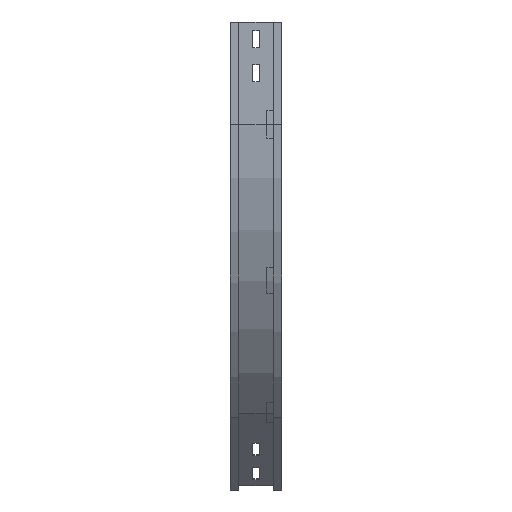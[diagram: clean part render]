
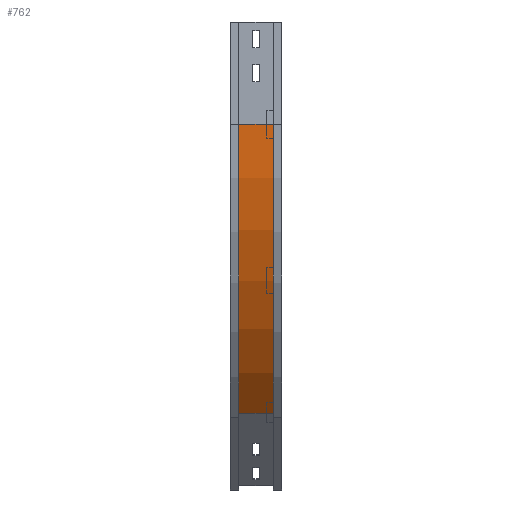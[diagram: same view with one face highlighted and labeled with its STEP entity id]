
A CAD part, left-side view. The second image highlights one B-rep face of the part: STEP entity #762.
In plain terms, the highlighted cylindrical face has radius 600 mm (diameter 1200 mm), a partial arc.
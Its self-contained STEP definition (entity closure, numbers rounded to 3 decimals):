
#13 = DIRECTION ( 'NONE',  ( -1., 0., 0. ) ) ;
#142 = ORIENTED_EDGE ( 'NONE', *, *, #352, .T. ) ;
#220 = CARTESIAN_POINT ( 'NONE',  ( 9., 12., -150. ) ) ;
#352 = EDGE_CURVE ( 'NONE', #3407, #3027, #772, .T. ) ;
#370 = DIRECTION ( 'NONE',  ( -1., 0., 0. ) ) ;
#562 = DIRECTION ( 'NONE',  ( 0., -1., 0. ) ) ;
#740 = CARTESIAN_POINT ( 'NONE',  ( 184.736, 12., -574.264 ) ) ;
#746 = EDGE_CURVE ( 'NONE', #2995, #3027, #2009, .T. ) ;
#762 = ADVANCED_FACE ( 'NONE', ( #2463 ), #2165, .T. ) ;
#772 = LINE ( 'NONE', #1827, #2651 ) ;
#810 = CARTESIAN_POINT ( 'NONE',  ( 9., 12., -150. ) ) ;
#832 = AXIS2_PLACEMENT_3D ( 'NONE', #2701, #1389, #370 ) ;
#903 = ORIENTED_EDGE ( 'NONE', *, *, #2497, .T. ) ;
#975 = VECTOR ( 'NONE', #2694, 1000. ) ;
#1070 = VERTEX_POINT ( 'NONE', #3372 ) ;
#1158 = LINE ( 'NONE', #810, #975 ) ;
#1389 = DIRECTION ( 'NONE',  ( 0., -1., 0. ) ) ;
#1690 = EDGE_LOOP ( 'NONE', ( #1840, #2007, #903, #142 ) ) ;
#1726 = AXIS2_PLACEMENT_3D ( 'NONE', #2422, #2183, #2739 ) ;
#1827 = CARTESIAN_POINT ( 'NONE',  ( 184.736, 12., -574.264 ) ) ;
#1840 = ORIENTED_EDGE ( 'NONE', *, *, #746, .F. ) ;
#1900 = CIRCLE ( 'NONE', #3266, 600. ) ;
#2007 = ORIENTED_EDGE ( 'NONE', *, *, #2552, .F. ) ;
#2009 = CIRCLE ( 'NONE', #832, 600. ) ;
#2165 = CYLINDRICAL_SURFACE ( 'NONE', #1726, 600. ) ;
#2183 = DIRECTION ( 'NONE',  ( 0., -1., 0. ) ) ;
#2386 = CARTESIAN_POINT ( 'NONE',  ( 609., 63., -150. ) ) ;
#2422 = CARTESIAN_POINT ( 'NONE',  ( 609., 0., -150. ) ) ;
#2463 = FACE_OUTER_BOUND ( 'NONE', #1690, .T. ) ;
#2497 = EDGE_CURVE ( 'NONE', #1070, #3407, #1900, .T. ) ;
#2517 = CARTESIAN_POINT ( 'NONE',  ( 184.736, 63., -574.264 ) ) ;
#2552 = EDGE_CURVE ( 'NONE', #1070, #2995, #1158, .T. ) ;
#2651 = VECTOR ( 'NONE', #562, 1000. ) ;
#2694 = DIRECTION ( 'NONE',  ( 0., -1., 0. ) ) ;
#2701 = CARTESIAN_POINT ( 'NONE',  ( 609., 12., -150. ) ) ;
#2739 = DIRECTION ( 'NONE',  ( 0., 0., -1. ) ) ;
#2911 = DIRECTION ( 'NONE',  ( 0., -1., 0. ) ) ;
#2995 = VERTEX_POINT ( 'NONE', #220 ) ;
#3027 = VERTEX_POINT ( 'NONE', #740 ) ;
#3266 = AXIS2_PLACEMENT_3D ( 'NONE', #2386, #2911, #13 ) ;
#3372 = CARTESIAN_POINT ( 'NONE',  ( 9., 63., -150. ) ) ;
#3407 = VERTEX_POINT ( 'NONE', #2517 ) ;
